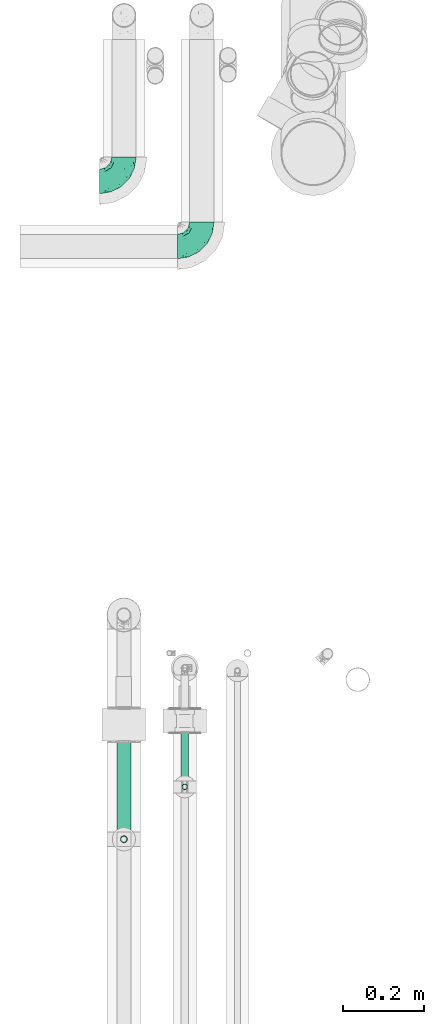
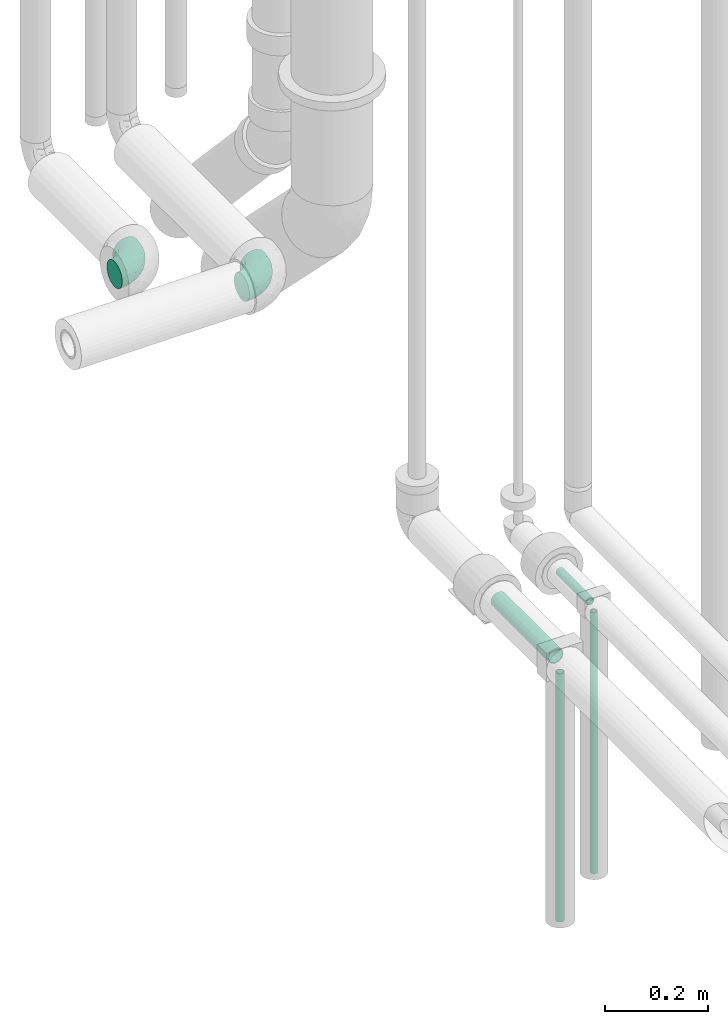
# One storey, part 25 of 78: 4 flow segments, 2 flow fittings.
"""IFC2X3 building model written with IfcOpenShell, lengths in millimetres."""

from ifc_helpers import new_model, entity, si_unit, converted_unit, derived_unit, direction, frame, origin_with_axes, origin_2d_with_axis, place, context, subcontext, project, spatial, hollow_circle, extrude, open_shell, surface_model, source, transform, mapped, type_object, element, save


model = new_model("IFC2X3")

# Units and contexts
model_context = context("Model", 3, precision=0.01, world=frame((0.0, 4.29681676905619e-09, 0.0)), true_north=direction((4.01073788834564e-13, 1.0)))
plan_context = context("Plan", 3, precision=0.01, world=frame((0.0, 4.29681676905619e-09, 0.0)), true_north=direction((4.01073788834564e-13, 1.0)))
body_context = subcontext(model_context, "Body", "Model", "MODEL_VIEW")
ifc_project = project(units=[converted_unit("PLANEANGLEUNIT", "DEGREE", entity("IfcPositiveLengthMeasure", 0.0174532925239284), si_unit("PLANEANGLEUNIT", "RADIAN"), dimensions=[0, 0, 0, 0, 0, 0, 0]), si_unit("AREAUNIT", "SQUARE_METRE"), si_unit("LENGTHUNIT", "METRE", prefix="MILLI"), si_unit("MASSUNIT", "GRAM", prefix="KILO"), si_unit("POWERUNIT", "WATT"), si_unit("PRESSUREUNIT", "PASCAL"), si_unit("FORCEUNIT", "NEWTON", prefix="KILO"), si_unit("ELECTRICVOLTAGEUNIT", "VOLT"), si_unit("ELECTRICCURRENTUNIT", "AMPERE"), si_unit("THERMODYNAMICTEMPERATUREUNIT", "DEGREE_CELSIUS"), si_unit("TIMEUNIT", "SECOND"), si_unit("VOLUMEUNIT", "CUBIC_METRE"), derived_unit("LINEARVELOCITYUNIT", [(si_unit("LENGTHUNIT", "METRE"), 1), (si_unit("TIMEUNIT", "SECOND"), -1)]), derived_unit("VOLUMETRICFLOWRATEUNIT", [(si_unit("VOLUMEUNIT", "CUBIC_METRE"), 1), (si_unit("TIMEUNIT", "SECOND"), -1)]), derived_unit("THERMALTRANSMITTANCEUNIT", [(si_unit("POWERUNIT", "WATT"), 1), (si_unit("THERMODYNAMICTEMPERATUREUNIT", "KELVIN"), -1), (si_unit("AREAUNIT", "SQUARE_METRE"), -1)]), derived_unit("SOUNDPRESSUREUNIT", [(si_unit("PRESSUREUNIT", "PASCAL"), 1)])], contexts=[model_context, plan_context])

# Site, building, storey
site_placement = place(None, frame((0.0, -4.29681676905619e-09, 0.0), z_axis=(0.0, 0.0, 1.0), x_axis=(1.0, 0.0, 0.0)))
site = spatial("IfcSite", under=ifc_project, at=site_placement, Name="ENGM", CompositionType="ELEMENT")
building_placement = place(site_placement, frame((0.0, 4.29681676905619e-09, 0.0), z_axis=(0.0, 0.0, 1.0), x_axis=(1.0, 0.0, 0.0)))
building = spatial("IfcBuilding", under=site, at=building_placement, Name="TH", CompositionType="ELEMENT")
storey_placement = place(building_placement, frame((0.0, 0.0, 205200.0), z_axis=(0.0, 0.0, 1.0), x_axis=(1.0, 0.0, 0.0)))
storey = spatial("IfcBuildingStorey", under=building, at=storey_placement, Name="Nivå D + 1,2 m", CompositionType="ELEMENT", Elevation=205200.0)

# Flow fittings
pipe_fitting_type = type_object("IfcPipeFittingType", Name="magi_pipe_fe_elbow_short_001", PredefinedType="BEND")
shared_shape_1 = source(origin_with_axes(), body_context, "Body", "SurfaceModel", [
    surface_model("IfcShellBasedSurfaceModel", [(-60.4, 15.1, -26.15397), (-60.4, 7.81634, -29.17096), (-60.4, 0.0, -30.2), (-60.4, -21.35462, -21.35462), (-60.4, 26.15397, -15.1), (-60.4, 21.35462, -21.35462), (-60.4, 29.17096, -7.81634), (-60.4, -15.1, -26.15397), (-60.4, -7.81634, -29.17096), (-60.4, -26.15397, -15.1), (-60.4, -29.17096, -7.81634), (-60.4, -30.2, 0.0), (-60.4, -29.17096, 7.81634), (-60.4, 29.17096, 7.81634), (-60.4, -21.35462, 21.35462), (-60.4, 26.15397, 15.1), (-60.4, 21.35462, 21.35462), (-60.4, 7.81634, 29.17096), (-60.4, 15.1, 26.15397), (-60.4, -26.15397, 15.1), (-60.4, -7.81634, 29.17096), (-60.4, 0.0, 30.2), (-60.4, -15.1, 26.15397), (-60.4, 30.2, 0.0), (0.0, 60.4, -30.2), (-7.81634, 60.4, -29.17096), (-15.1, 60.4, -26.15397), (-26.15397, 60.4, -15.1), (-29.17096, 60.4, -7.81634), (-21.35462, 60.4, -21.35462), (29.17096, 60.4, -7.81634), (7.81634, 60.4, -29.17096), (21.35462, 60.4, -21.35462), (15.1, 60.4, -26.15397), (26.15397, 60.4, -15.1), (29.17096, 60.4, 7.81634), (30.2, 60.4, 0.0), (-29.17096, 60.4, 7.81634), (21.35462, 60.4, 21.35462), (-21.35462, 60.4, 21.35462), (-26.15397, 60.4, 15.1), (-15.1, 60.4, 26.15397), (-7.81634, 60.4, 29.17096), (26.15397, 60.4, 15.1), (15.1, 60.4, 26.15397), (0.0, 60.4, 30.2), (7.81634, 60.4, 29.17096), (-30.2, 60.4, 0.0), (-40.79975, -26.48639, 9.49143), (-44.2927, -23.46036, 16.95222), (-32.40306, -25.76572, 0.0), (-45.54716, -27.84754, 0.0), (-7.73382, -10.42985, 11.64553), (-2.102, -8.06735, 6.35117), (1.74449, -1.74448, 12.51332), (-46.13593, -4.00068, 29.68351), (-42.2898, 4.62925, 30.14853), (10.31662, 7.37496, 11.34434), (18.44156, 24.57514, 15.02148), (7.07276, 10.95732, 19.27498), (-30.06693, -0.27102, 29.27145), (-44.17726, -11.39441, 27.16031), (-23.4551, -7.13383, 25.24246), (-38.74025, -17.25266, 22.43475), (-27.059, -23.14697, 6.2131), (-19.77486, -19.33133, 0.0), (-10.95732, -7.07276, 19.27498), (-5.39458, 5.39458, 24.69106), (-29.52069, 48.20084, 13.12597), (-25.22813, 47.01796, 19.8404), (-11.27311, 52.093, 28.2877), (-4.13904, 45.17494, 30.12582), (-46.55352, 11.8443, 28.52822), (-7.88305, 20.22717, 29.65331), (-15.00576, 5.54025, 28.20072), (-3.0852, 16.31623, 27.75343), (-52.24998, 18.2886, 24.60768), (-10.49591, 29.69865, 30.14582), (-22.36958, 22.36958, 29.4662), (-17.98262, 13.19715, 30.04443), (-47.74519, 32.16745, 6.63994), (-48.21585, 29.51581, 13.12396), (-37.49729, 37.49729, 11.28901), (-47.20967, 25.1754, 19.81929), (17.25266, 38.74025, 22.43475), (-31.32046, 40.03273, 17.09289), (11.39441, 44.17725, 27.16031), (23.46036, 44.2927, 16.95222), (26.48639, 40.79975, 9.49143), (-7.14666, -12.89694, 0.0), (-14.66463, -16.61192, 7.82462), (4.00068, 46.13593, 29.68351), (-33.18602, 12.93608, 29.65955), (-29.63414, 7.40029, 30.18711), (19.33133, 19.77486, 0.0), (23.14697, 27.059, 6.2131), (16.61192, 14.66463, 7.82462), (27.84754, 45.54716, 0.0), (-32.10611, 20.49149, 27.93323), (-24.57514, -18.44156, 15.02148), (-21.89487, 39.03366, 25.38224), (-18.45005, 50.6405, 24.73297), (-31.78933, 48.71949, 6.47886), (-37.84917, 39.61073, 5.315), (13.91334, 24.32737, 20.46816), (7.13383, 23.4551, 25.24246), (-34.24603, 45.3, 0.0), (-27.95749, 31.89166, 24.81537), (-41.58677, 20.50028, 25.43151), (-0.46157, 0.46157, 17.84239), (-17.23338, 31.26213, 29.03145), (-24.05994, 29.23812, 27.47858), (-13.06094, 40.92174, 28.76128), (-31.83392, 33.72702, 21.39203), (-38.78737, 32.45032, 16.84022), (0.27102, 30.06693, 29.27145), (-24.21469, -13.23741, 21.05734), (8.23548, 2.19333, 6.02161), (25.76572, 32.40306, 0.0), (12.89694, 7.14666, 0.0), (-45.3, 34.24603, 0.0), (2.87514, -2.87514, 0.0), (-44.53432, 26.00869, -20.11577), (-48.18822, 29.5248, -13.12766), (-24.67192, -7.62159, -25.33714), (-26.22398, -0.37671, -28.72374), (-12.13397, -0.50536, -24.74577), (-47.80891, 3.81859, -30.10171), (-44.05719, -27.03585, -9.84546), (-37.94552, -22.39569, -16.35738), (-28.81663, -22.64668, -10.132), (-43.93799, 12.32789, -28.63778), (-33.27, 7.1392, -30.19348), (-26.0087, 44.53432, -20.11577), (-48.89164, 31.68872, -6.60822), (-18.95522, 47.41145, -24.9828), (-12.32789, 43.93799, -28.63778), (-38.42778, 38.42778, -7.21049), (18.04263, 43.69152, -22.80146), (10.42233, 38.24532, -26.85918), (11.90576, 51.00473, -27.48545), (-5.88381, -10.62327, -7.95335), (-5.9694, -7.83116, -13.76182), (3.24899, -2.56331, -7.96861), (-17.62229, 16.32998, -30.18286), (-28.62959, 17.86952, -29.30113), (-47.41145, 18.95522, -24.98279), (-50.84455, -24.04089, -17.54629), (-29.38053, 34.30665, -22.74674), (-27.91099, 27.91099, -26.51666), (-36.91219, 25.51094, -23.99233), (2.63361, -0.55507, -12.94367), (-43.69152, -18.04263, -22.80146), (22.39569, 37.94552, -16.35738), (27.03585, 44.05719, -9.84546), (22.64668, 28.81663, -10.132), (-51.00473, -11.90576, -27.48545), (3.80785, 44.49426, -29.64782), (-19.0921, -14.69952, -16.47487), (-22.5489, -12.31934, -21.1263), (-10.94772, -7.46239, -18.88204), (-32.95885, -13.78948, -23.71249), (-38.24532, -10.42233, -26.85918), (-44.49427, -3.80785, -29.64782), (-22.6301, 37.15314, -25.58239), (-31.68872, 48.89164, -6.60822), (-3.8186, 47.80891, -30.10171), (-10.66133, 10.66133, -28.51691), (0.37671, 26.22398, -28.72374), (1.27136, 14.18619, -25.18541), (-29.5248, 48.18821, -13.12766), (-36.27113, 36.27113, -14.88553), (24.04089, 50.84455, -17.54629), (17.50188, 24.2636, -16.21902), (9.73525, 11.44907, -16.75087), (12.31934, 22.5489, -21.1263), (6.24176, 25.78208, -26.38266), (-7.1392, 33.27, -30.19348), (-36.7166, 19.4356, -27.21946), (-18.00754, 29.38864, -29.15505), (-0.28629, 0.28629, -17.49884), (-13.98848, -16.88492, -5.19509), (15.48569, 15.00432, -11.24742), (16.88492, 13.98848, -5.19509), (3.55782, 9.20508, -21.18402), (-15.00432, -15.48569, -11.24742)], [open_shell([[[0, 1, 2]], [[0, 2, 3]], [[4, 0, 3]], [[5, 0, 4]], [[6, 4, 3]], [[7, 3, 8]], [[3, 2, 8]], [[9, 10, 3]], [[3, 10, 6]], [[11, 12, 10]], [[13, 6, 10]], [[13, 10, 14]], [[15, 13, 16]], [[17, 18, 16]], [[13, 17, 16]], [[17, 13, 14]], [[19, 14, 12]], [[12, 14, 10]], [[20, 21, 22]], [[17, 14, 22]], [[17, 22, 21]], [[13, 23, 6]], [[24, 25, 26]], [[24, 26, 27]], [[27, 28, 24]], [[27, 26, 29]], [[24, 28, 30]], [[31, 32, 33]], [[31, 24, 32]], [[32, 30, 34]], [[24, 30, 32]], [[30, 35, 36]], [[30, 28, 37]], [[38, 30, 37]], [[39, 37, 40]], [[39, 41, 42]], [[39, 42, 37]], [[38, 37, 42]], [[35, 38, 43]], [[30, 38, 35]], [[44, 45, 46]], [[44, 38, 42]], [[45, 44, 42]], [[28, 47, 37]], [[48, 49, 19]], [[50, 48, 51]], [[52, 53, 54]], [[12, 48, 19]], [[12, 51, 48]], [[21, 55, 56]], [[19, 49, 14]], [[57, 58, 59]], [[60, 61, 62]], [[63, 22, 14]], [[63, 61, 22]], [[64, 50, 65]], [[62, 66, 67]], [[40, 68, 69]], [[42, 70, 71]], [[17, 72, 18]], [[73, 74, 75]], [[18, 76, 16]], [[20, 55, 21]], [[77, 78, 79]], [[80, 81, 82]], [[15, 83, 81]], [[84, 38, 44]], [[23, 13, 80]], [[13, 15, 81]], [[68, 85, 69]], [[83, 15, 16]], [[21, 56, 17]], [[44, 86, 84]], [[16, 76, 83]], [[87, 58, 88]], [[40, 37, 68]], [[89, 90, 65]], [[45, 91, 46]], [[65, 90, 64]], [[45, 42, 71]], [[92, 93, 79]], [[88, 35, 43]], [[43, 38, 87]], [[87, 88, 43]], [[94, 95, 96]], [[88, 97, 35]], [[98, 72, 92]], [[49, 99, 63]], [[69, 100, 101]], [[82, 102, 103]], [[104, 105, 59]], [[106, 102, 47]], [[98, 107, 108]], [[102, 82, 68]], [[86, 44, 46]], [[69, 39, 40]], [[109, 54, 57]], [[110, 100, 111]], [[22, 61, 20]], [[101, 41, 39]], [[70, 42, 41]], [[112, 77, 71]], [[84, 86, 105]], [[96, 95, 58]], [[100, 69, 113]], [[72, 17, 56]], [[108, 113, 83]], [[81, 114, 82]], [[112, 110, 77]], [[91, 71, 115]], [[62, 61, 63]], [[55, 61, 60]], [[116, 99, 66]], [[74, 62, 67]], [[91, 86, 46]], [[105, 86, 115]], [[75, 105, 115]], [[109, 67, 66]], [[59, 105, 67]], [[48, 64, 99]], [[99, 49, 48]], [[63, 14, 49]], [[38, 84, 87]], [[58, 87, 84]], [[92, 72, 56]], [[76, 72, 108]], [[102, 68, 37]], [[82, 114, 85]], [[98, 111, 107]], [[112, 70, 101]], [[114, 83, 113]], [[82, 103, 80]], [[92, 79, 78]], [[115, 71, 77]], [[74, 79, 60]], [[77, 79, 73]], [[71, 91, 45]], [[86, 91, 115]], [[61, 55, 20]], [[56, 55, 60]], [[57, 54, 117]], [[104, 59, 58]], [[116, 66, 62]], [[52, 99, 90]], [[12, 11, 51]], [[97, 88, 118]], [[97, 36, 35]], [[53, 90, 89]], [[90, 53, 52]], [[94, 96, 119]], [[88, 95, 118]], [[117, 54, 53]], [[92, 56, 93]], [[98, 92, 78]], [[111, 98, 78]], [[72, 98, 108]], [[110, 111, 78]], [[107, 111, 100]], [[47, 102, 37]], [[102, 106, 103]], [[106, 120, 103]], [[103, 120, 80]], [[23, 80, 120]], [[13, 81, 80]], [[56, 60, 93]], [[60, 79, 93]], [[117, 121, 119]], [[121, 117, 53]], [[53, 89, 121]], [[119, 96, 117]], [[117, 96, 57]], [[77, 110, 78]], [[100, 110, 112]], [[83, 114, 81]], [[85, 114, 113]], [[69, 85, 113]], [[82, 85, 68]], [[109, 52, 54]], [[99, 52, 66]], [[69, 101, 39]], [[112, 101, 100]], [[100, 113, 107]], [[108, 107, 113]], [[62, 74, 60]], [[75, 74, 67]], [[105, 75, 67]], [[73, 75, 115]], [[77, 73, 115]], [[74, 73, 79]], [[99, 64, 90]], [[50, 64, 48]], [[118, 95, 94]], [[58, 95, 88]], [[58, 57, 96]], [[109, 57, 59]], [[72, 76, 18]], [[83, 76, 108]], [[101, 70, 41]], [[71, 70, 112]], [[58, 84, 104]], [[105, 104, 84]], [[67, 109, 59]], [[52, 109, 66]], [[62, 63, 116]], [[99, 116, 63]], [[122, 4, 123]], [[124, 125, 126]], [[2, 1, 127]], [[128, 129, 130]], [[127, 131, 132]], [[27, 29, 133]], [[120, 134, 23]], [[135, 26, 136]], [[123, 134, 137]], [[138, 139, 140]], [[122, 5, 4]], [[141, 142, 143]], [[144, 132, 145]], [[131, 0, 146]], [[128, 9, 147]], [[148, 149, 150]], [[128, 51, 10]], [[142, 151, 143]], [[152, 3, 7]], [[153, 154, 155]], [[156, 152, 7]], [[31, 157, 24]], [[158, 159, 160]], [[147, 9, 3]], [[129, 152, 161]], [[156, 7, 8]], [[162, 163, 125]], [[154, 34, 30]], [[120, 106, 137]], [[149, 148, 164]], [[47, 28, 165]], [[163, 8, 2]], [[4, 6, 123]], [[25, 166, 136]], [[167, 168, 169]], [[170, 133, 171]], [[25, 24, 166]], [[33, 32, 138]], [[157, 31, 140]], [[28, 27, 170]], [[32, 34, 172]], [[26, 135, 29]], [[132, 131, 145]], [[31, 33, 140]], [[173, 174, 175]], [[169, 168, 176]], [[25, 136, 26]], [[175, 138, 173]], [[168, 177, 157]], [[163, 162, 156]], [[153, 172, 154]], [[9, 128, 10]], [[154, 97, 118]], [[131, 178, 145]], [[0, 5, 146]], [[175, 139, 138]], [[155, 118, 94]], [[131, 1, 0]], [[146, 178, 131]], [[170, 137, 165]], [[149, 179, 145]], [[171, 133, 148]], [[160, 180, 142]], [[65, 181, 89]], [[170, 165, 28]], [[137, 171, 123]], [[172, 138, 32]], [[138, 153, 173]], [[168, 157, 139]], [[166, 157, 177]], [[176, 175, 169]], [[168, 167, 144]], [[154, 30, 97]], [[155, 182, 173]], [[162, 124, 161]], [[147, 152, 129]], [[127, 163, 2]], [[132, 144, 125]], [[132, 125, 163]], [[125, 167, 126]], [[129, 158, 130]], [[30, 36, 97]], [[143, 182, 183]], [[169, 126, 167]], [[5, 122, 146]], [[178, 150, 149]], [[136, 179, 164]], [[133, 29, 135]], [[123, 6, 134]], [[122, 123, 171]], [[133, 170, 27]], [[137, 170, 171]], [[184, 175, 174]], [[180, 160, 126]], [[126, 169, 184]], [[126, 159, 124]], [[51, 128, 50]], [[51, 11, 10]], [[131, 127, 1]], [[163, 127, 132]], [[157, 166, 24]], [[136, 166, 177]], [[164, 179, 149]], [[144, 167, 125]], [[179, 144, 145]], [[168, 144, 177]], [[136, 177, 179]], [[144, 179, 177]], [[141, 121, 89]], [[89, 181, 141]], [[154, 118, 155]], [[183, 155, 94]], [[143, 183, 119]], [[119, 183, 94]], [[155, 183, 182]], [[181, 130, 185]], [[50, 128, 130]], [[130, 181, 65]], [[50, 130, 65]], [[141, 181, 185]], [[142, 141, 185]], [[143, 121, 141]], [[158, 160, 142]], [[142, 180, 151]], [[158, 142, 185]], [[126, 160, 159]], [[130, 158, 185]], [[129, 159, 158]], [[23, 134, 6]], [[120, 137, 134]], [[137, 106, 165]], [[47, 165, 106]], [[174, 151, 180]], [[182, 143, 151]], [[150, 146, 122]], [[149, 145, 178]], [[146, 150, 178]], [[122, 171, 148]], [[148, 150, 122]], [[164, 133, 135]], [[133, 164, 148]], [[164, 135, 136]], [[138, 140, 33]], [[157, 140, 139]], [[154, 172, 34]], [[138, 172, 153]], [[163, 156, 8]], [[152, 156, 162]], [[152, 147, 3]], [[128, 147, 129]], [[155, 173, 153]], [[174, 173, 182]], [[151, 174, 182]], [[174, 180, 184]], [[126, 184, 180]], [[175, 184, 169]], [[168, 139, 176]], [[175, 176, 139]], [[161, 124, 159]], [[125, 124, 162]], [[129, 161, 159]], [[162, 161, 152]], [[143, 119, 121]]])]),
])
for number, where, z_axis, x_axis, name in (
    (1, (895369.84063, 479755.66669, 4400.0), (0.0, 0.0, 1.0), (1.0, 0.0, 0.0), "magi_pipe_fe_elbow_short_001"),
    (2, (895562.81931, 479594.31945, 4400.0), (0.0, 0.0, 1.0), (1.0, 0.0, 0.0), "magi_pipe_fe_elbow_short_001"),
):
    element("IfcFlowFitting", number, at=place(storey_placement, frame(where, z_axis=z_axis, x_axis=x_axis)), inside=storey, type_object=pipe_fitting_type, Name=name, context=body_context, shape_type="MappedRepresentation", body=[
        mapped(shared_shape_1, transform((0.0, 0.0, 0.0), scale=1.0)),
    ])

# Flow segments
pipe_segment_type = type_object("IfcPipeSegmentType", Name="Kobberrør", PredefinedType="RIGIDSEGMENT")
shared_shape_2 = source(origin_with_axes(), body_context, "Body", "SweptSolid", [
    extrude(hollow_circle(Radius=9.0, WallThickness=2.0, at=origin_2d_with_axis()), frame((0.0, 0.0, 0.0), z_axis=(1.0, 0.0, 0.0), x_axis=(0.0, 1.0, 0.0)), (0.0, 0.0, 1.0), 589.5),
])
flow_segment_1_placement = place(storey_placement, frame((895369.5, 478124.37013, 4423.75), z_axis=(-1.0, 0.0, 0.0), x_axis=(0.0, 3.999999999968e-06, -0.999999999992)))
element("IfcFlowSegment", 3, at=flow_segment_1_placement, inside=storey, type_object=pipe_segment_type, Name="Kobberrør", context=body_context, shape_type="MappedRepresentation", body=[
    mapped(shared_shape_2, transform((0.0, 0.0, 0.0), scale=1.0)),
])
shared_shape_3 = source(origin_with_axes(), body_context, "Body", "SweptSolid", [
    extrude(hollow_circle(Radius=17.5, WallThickness=2.0, at=origin_2d_with_axis()), frame((0.0, 0.0, 0.0), z_axis=(1.0, 0.0, 0.0), x_axis=(0.0, 1.0, 0.0)), (0.0, 0.0, 1.0), 222.1),
])
flow_segment_2_placement = place(storey_placement, frame((895369.5, 478364.45641, 4450.0), z_axis=(0.0, 0.0, 1.0), x_axis=(0.0, -1.0, 0.0)))
element("IfcFlowSegment", 4, at=flow_segment_2_placement, inside=storey, type_object=pipe_segment_type, Name="Kobberrør", context=body_context, shape_type="MappedRepresentation", body=[
    mapped(shared_shape_3, transform((0.0, 0.0, 0.0), scale=1.0)),
])
shared_shape_4 = source(origin_with_axes(), body_context, "Body", "SweptSolid", [
    extrude(hollow_circle(Radius=7.5, WallThickness=2.0, at=origin_2d_with_axis()), frame((0.0, 0.0, 0.0), z_axis=(1.0, 0.0, 0.0), x_axis=(0.0, 1.0, 0.0)), (0.0, 0.0, 1.0), 620.4),
])
flow_segment_3_placement = place(storey_placement, frame((895520.48466, 478254.37338, 4436.5), z_axis=(-1.0, 0.0, 0.0), x_axis=(0.0, 3.999999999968e-06, -0.999999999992)))
element("IfcFlowSegment", 5, at=flow_segment_3_placement, inside=storey, type_object=pipe_segment_type, Name="Kobberrør", context=body_context, shape_type="MappedRepresentation", body=[
    mapped(shared_shape_4, transform((0.0, 0.0, 0.0), scale=1.0)),
])
shared_shape_5 = source(origin_with_axes(), body_context, "Body", "SweptSolid", [
    extrude(hollow_circle(Radius=9.0, WallThickness=2.0, at=origin_2d_with_axis()), frame((0.0, 0.0, 0.0), z_axis=(1.0, 0.0, 0.0), x_axis=(0.0, 1.0, 0.0)), (0.0, 0.0, 1.0), 117.6),
])
flow_segment_4_placement = place(storey_placement, frame((895520.48466, 478386.98509, 4450.0), z_axis=(0.0, 0.0, 1.0), x_axis=(0.0, -1.0, 0.0)))
element("IfcFlowSegment", 6, at=flow_segment_4_placement, inside=storey, type_object=pipe_segment_type, Name="Kobberrør", context=body_context, shape_type="MappedRepresentation", body=[
    mapped(shared_shape_5, transform((0.0, 0.0, 0.0), scale=1.0)),
])

save(model, "model.ifc")
